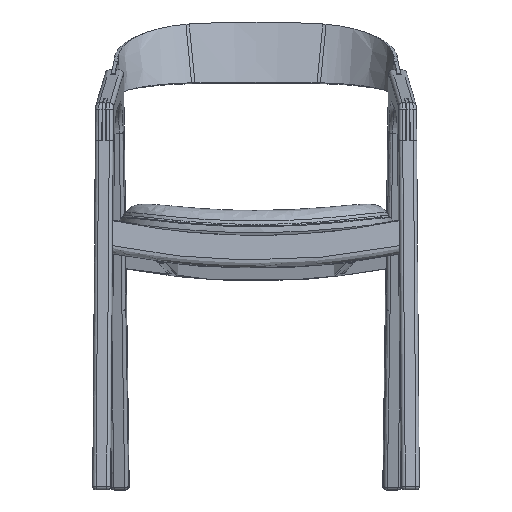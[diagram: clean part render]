
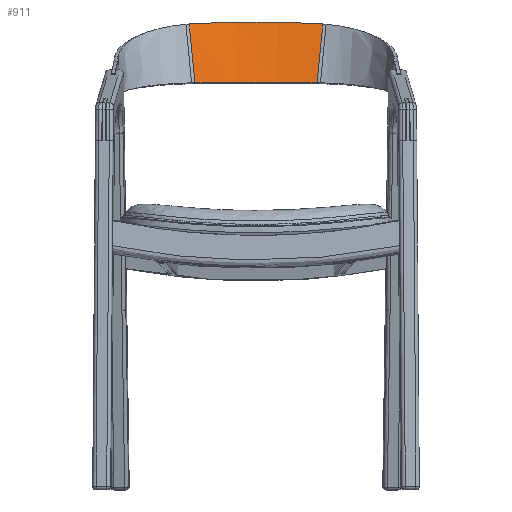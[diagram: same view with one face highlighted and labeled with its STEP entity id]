
A CAD part, front view. The second image highlights one B-rep face of the part: STEP entity #911.
In plain terms, the highlighted free-form (B-spline) face has degree [3, 2] with [4, 3] control points.
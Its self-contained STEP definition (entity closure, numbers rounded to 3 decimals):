
#911=ADVANCED_FACE('',(#1363),#6646,.T.);
#1363=FACE_OUTER_BOUND('',#1815,.T.);
#1815=EDGE_LOOP('',(#2329,#2330,#2331,#2332));
#2329=ORIENTED_EDGE('',*,*,#4310,.T.);
#2330=ORIENTED_EDGE('',*,*,#4288,.T.);
#2331=ORIENTED_EDGE('',*,*,#4340,.T.);
#2332=ORIENTED_EDGE('',*,*,#4287,.T.);
#4287=EDGE_CURVE('',#6026,#6025,#5541,.T.);
#4288=EDGE_CURVE('',#6027,#6028,#5542,.T.);
#4310=EDGE_CURVE('',#6025,#6027,#5564,.T.);
#4340=EDGE_CURVE('',#6028,#6026,#5594,.T.);
#5541=B_SPLINE_CURVE_WITH_KNOTS('',3,(#9091,#9092,#9093,#9094),
 .UNSPECIFIED.,.F.,.F.,(4,4),(-107.351,-1.216),
 .UNSPECIFIED.);
#5542=B_SPLINE_CURVE_WITH_KNOTS('',3,(#9095,#9096,#9097,#9098),
 .UNSPECIFIED.,.F.,.F.,(4,4),(1.216,107.351),
 .UNSPECIFIED.);
#5564=B_SPLINE_CURVE_WITH_KNOTS('',3,(#9222,#9223,#9224,#9225),
 .UNSPECIFIED.,.F.,.F.,(4,4),(0.,208.959),
 .UNSPECIFIED.);
#5594=B_SPLINE_CURVE_WITH_KNOTS('',3,(#9402,#9403,#9404,#9405),
 .UNSPECIFIED.,.F.,.F.,(4,4),(0.,229.041),
 .UNSPECIFIED.);
#6025=VERTEX_POINT('',#9025);
#6026=VERTEX_POINT('',#9026);
#6027=VERTEX_POINT('',#9027);
#6028=VERTEX_POINT('',#9028);
#6646=(
BOUNDED_SURFACE()
B_SPLINE_SURFACE(3,2,((#8564,#8565,#8566),(#8567,#8568,#8569),(#8570,#8571,
#8572),(#8573,#8574,#8575)),.UNSPECIFIED.,.F.,.F.,.F.)
B_SPLINE_SURFACE_WITH_KNOTS((4,4),(3,3),(1.141,108.385),
(-0.001,228.381),.UNSPECIFIED.)
GEOMETRIC_REPRESENTATION_ITEM()
RATIONAL_B_SPLINE_SURFACE(((0.999,0.986,0.999),
(1.,0.986,1.),(1.,
0.985,1.),(1.,0.985,
1.)))
REPRESENTATION_ITEM('')
SURFACE()
);
#8564=CARTESIAN_POINT('',(102.693,233.963,684.657));
#8565=CARTESIAN_POINT('',(0.,250.537,687.141));
#8566=CARTESIAN_POINT('',(-102.693,233.963,684.657));
#8567=CARTESIAN_POINT('',(105.925,243.193,717.963));
#8568=CARTESIAN_POINT('',(0.,260.693,721.402));
#8569=CARTESIAN_POINT('',(-105.925,243.193,717.963));
#8570=CARTESIAN_POINT('',(109.154,252.416,751.243));
#8571=CARTESIAN_POINT('',(0.,270.859,755.694));
#8572=CARTESIAN_POINT('',(-109.154,252.416,751.243));
#8573=CARTESIAN_POINT('',(112.381,261.632,784.497));
#8574=CARTESIAN_POINT('',(0.,281.034,790.019));
#8575=CARTESIAN_POINT('',(-112.381,261.632,784.497));
#9025=CARTESIAN_POINT('',(-102.697,233.979,684.712));
#9026=CARTESIAN_POINT('',(-112.287,261.365,783.534));
#9027=CARTESIAN_POINT('',(102.697,233.979,684.712));
#9028=CARTESIAN_POINT('',(112.287,261.365,783.534));
#9091=CARTESIAN_POINT('',(-112.287,261.365,783.534));
#9092=CARTESIAN_POINT('',(-109.093,252.243,750.619));
#9093=CARTESIAN_POINT('',(-105.896,243.115,717.679));
#9094=CARTESIAN_POINT('',(-102.697,233.979,684.712));
#9095=CARTESIAN_POINT('',(102.697,233.979,684.712));
#9096=CARTESIAN_POINT('',(105.897,243.115,717.679));
#9097=CARTESIAN_POINT('',(109.093,252.243,750.619));
#9098=CARTESIAN_POINT('',(112.287,261.365,783.534));
#9222=CARTESIAN_POINT('',(-102.697,233.979,684.712));
#9223=CARTESIAN_POINT('',(-34.68,244.935,686.284));
#9224=CARTESIAN_POINT('',(34.68,244.935,686.284));
#9225=CARTESIAN_POINT('',(102.697,233.979,684.712));
#9402=CARTESIAN_POINT('',(112.287,261.365,783.534));
#9403=CARTESIAN_POINT('',(38.067,274.553,788.47));
#9404=CARTESIAN_POINT('',(-38.067,274.553,788.47));
#9405=CARTESIAN_POINT('',(-112.287,261.365,783.534));
